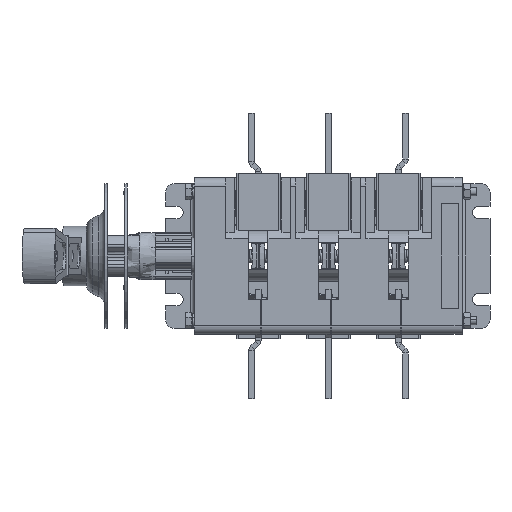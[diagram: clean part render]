
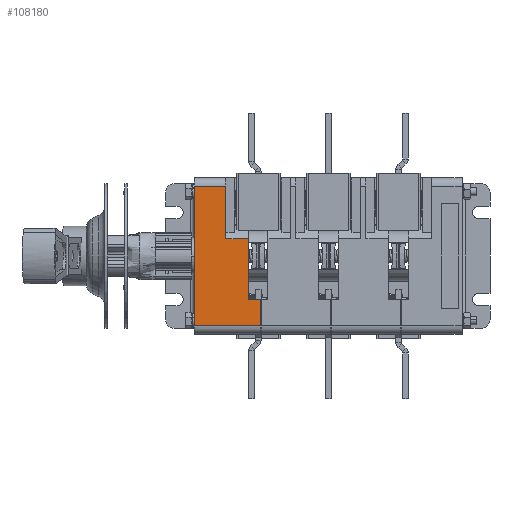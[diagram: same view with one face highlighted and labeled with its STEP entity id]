
A CAD part, front view. The second image highlights one B-rep face of the part: STEP entity #108180.
In plain terms, the highlighted planar face has unit normal (0, -1, 0) as drawn and (0, 1, 0) by its records, which use the part's own axes.
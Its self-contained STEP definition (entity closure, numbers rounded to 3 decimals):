
#784 = CARTESIAN_POINT ( 'NONE',  ( -45., 21., 23. ) ) ;
#1891 = VERTEX_POINT ( 'NONE', #6111 ) ;
#6111 = CARTESIAN_POINT ( 'NONE',  ( -40., 21., 5. ) ) ;
#8016 = DIRECTION ( 'NONE',  ( 0., 0., 1. ) ) ;
#9640 = VERTEX_POINT ( 'NONE', #63462 ) ;
#12837 = DIRECTION ( 'NONE',  ( 0., 0., -1. ) ) ;
#15331 = DIRECTION ( 'NONE',  ( 1., 0., 0. ) ) ;
#15741 = VERTEX_POINT ( 'NONE', #108041 ) ;
#16494 = LINE ( 'NONE', #50591, #63532 ) ;
#18088 = CARTESIAN_POINT ( 'NONE',  ( 25., 21., -15. ) ) ;
#21449 = EDGE_CURVE ( 'NONE', #1891, #113582, #66387, .T. ) ;
#29949 = CARTESIAN_POINT ( 'NONE',  ( -10., 21., 5. ) ) ;
#30260 = EDGE_CURVE ( 'NONE', #116596, #113582, #43936, .T. ) ;
#30741 = VECTOR ( 'NONE', #91161, 1000. ) ;
#31112 = VECTOR ( 'NONE', #101444, 1000. ) ;
#31451 = CARTESIAN_POINT ( 'NONE',  ( 40., 21., 23. ) ) ;
#34327 = CARTESIAN_POINT ( 'NONE',  ( 40., 21., -15. ) ) ;
#35644 = DIRECTION ( 'NONE',  ( 0., 0., 1. ) ) ;
#39303 = EDGE_CURVE ( 'NONE', #116596, #66652, #16494, .T. ) ;
#41355 = VECTOR ( 'NONE', #8016, 1000. ) ;
#42249 = LINE ( 'NONE', #34327, #57044 ) ;
#42860 = ORIENTED_EDGE ( 'NONE', *, *, #21449, .T. ) ;
#42934 = DIRECTION ( 'NONE',  ( 1., 0., 0. ) ) ;
#43191 = CARTESIAN_POINT ( 'NONE',  ( -40., 21., 23. ) ) ;
#43936 = LINE ( 'NONE', #784, #30741 ) ;
#44002 = CARTESIAN_POINT ( 'NONE',  ( 25., 21., -8. ) ) ;
#45447 = ORIENTED_EDGE ( 'NONE', *, *, #39303, .T. ) ;
#45857 = VECTOR ( 'NONE', #113357, 1000. ) ;
#47616 = CARTESIAN_POINT ( 'NONE',  ( -45., 21., 23. ) ) ;
#48843 = CARTESIAN_POINT ( 'NONE',  ( 40., 21., -15. ) ) ;
#50591 = CARTESIAN_POINT ( 'NONE',  ( 40., 21., 23. ) ) ;
#54579 = VERTEX_POINT ( 'NONE', #117784 ) ;
#57044 = VECTOR ( 'NONE', #42934, 1000. ) ;
#57770 = AXIS2_PLACEMENT_3D ( 'NONE', #47616, #84244, #65348 ) ;
#61077 = EDGE_LOOP ( 'NONE', ( #95671, #119959, #42860, #101065, #45447, #66432, #101001, #88970 ) ) ;
#63462 = CARTESIAN_POINT ( 'NONE',  ( -10., 21., -8. ) ) ;
#63532 = VECTOR ( 'NONE', #12837, 1000. ) ;
#65348 = DIRECTION ( 'NONE',  ( 0., 0., -1. ) ) ;
#66387 = LINE ( 'NONE', #120577, #41355 ) ;
#66432 = ORIENTED_EDGE ( 'NONE', *, *, #70258, .F. ) ;
#66652 = VERTEX_POINT ( 'NONE', #48843 ) ;
#67858 = EDGE_CURVE ( 'NONE', #9640, #15741, #93686, .T. ) ;
#70258 = EDGE_CURVE ( 'NONE', #94197, #66652, #42249, .T. ) ;
#70897 = LINE ( 'NONE', #29949, #45857 ) ;
#84244 = DIRECTION ( 'NONE',  ( 0., -1., 0. ) ) ;
#84548 = VECTOR ( 'NONE', #35644, 1000. ) ;
#85464 = LINE ( 'NONE', #93226, #31112 ) ;
#87805 = VECTOR ( 'NONE', #15331, 1000. ) ;
#88970 = ORIENTED_EDGE ( 'NONE', *, *, #67858, .F. ) ;
#91161 = DIRECTION ( 'NONE',  ( -1., 0., 0. ) ) ;
#93226 = CARTESIAN_POINT ( 'NONE',  ( 25., 21., -15. ) ) ;
#93686 = LINE ( 'NONE', #44002, #87805 ) ;
#94197 = VERTEX_POINT ( 'NONE', #18088 ) ;
#94866 = PLANE ( 'NONE',  #57770 ) ;
#95671 = ORIENTED_EDGE ( 'NONE', *, *, #106587, .T. ) ;
#101001 = ORIENTED_EDGE ( 'NONE', *, *, #112279, .T. ) ;
#101065 = ORIENTED_EDGE ( 'NONE', *, *, #30260, .F. ) ;
#101444 = DIRECTION ( 'NONE',  ( 0., 0., 1. ) ) ;
#105022 = FACE_OUTER_BOUND ( 'NONE', #61077, .T. ) ;
#106587 = EDGE_CURVE ( 'NONE', #9640, #54579, #108075, .T. ) ;
#108041 = CARTESIAN_POINT ( 'NONE',  ( 25., 21., -8. ) ) ;
#108075 = LINE ( 'NONE', #119883, #84548 ) ;
#108180 = ADVANCED_FACE ( 'NONE', ( #105022 ), #94866, .F. ) ;
#112279 = EDGE_CURVE ( 'NONE', #94197, #15741, #85464, .T. ) ;
#113357 = DIRECTION ( 'NONE',  ( 1., 0., 0. ) ) ;
#113582 = VERTEX_POINT ( 'NONE', #43191 ) ;
#114645 = EDGE_CURVE ( 'NONE', #1891, #54579, #70897, .T. ) ;
#116596 = VERTEX_POINT ( 'NONE', #31451 ) ;
#117784 = CARTESIAN_POINT ( 'NONE',  ( -10., 21., 5. ) ) ;
#119883 = CARTESIAN_POINT ( 'NONE',  ( -10., 21., -8. ) ) ;
#119959 = ORIENTED_EDGE ( 'NONE', *, *, #114645, .F. ) ;
#120577 = CARTESIAN_POINT ( 'NONE',  ( -40., 21., 23. ) ) ;
